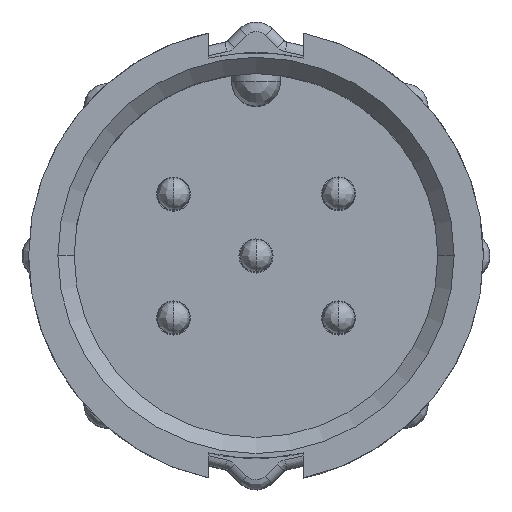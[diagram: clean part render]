
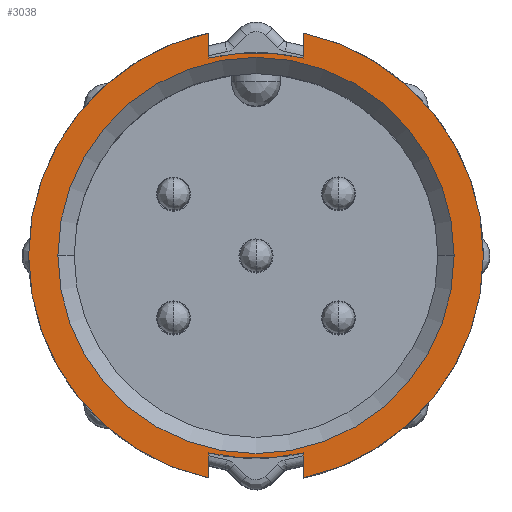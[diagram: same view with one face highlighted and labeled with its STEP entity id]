
A CAD part, top view. The second image highlights one B-rep face of the part: STEP entity #3038.
In plain terms, the highlighted planar face has unit normal (0, 0, 1).
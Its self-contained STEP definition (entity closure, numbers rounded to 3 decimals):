
#31 = CIRCLE ( 'NONE', #3529, 6.1 ) ;
#183 = DIRECTION ( 'NONE',  ( 0., 0., -1. ) ) ;
#588 = FACE_BOUND ( 'NONE', #2746, .T. ) ;
#611 = VERTEX_POINT ( 'NONE', #5896 ) ;
#698 = DIRECTION ( 'NONE',  ( 0., 1., 0. ) ) ;
#724 = VERTEX_POINT ( 'NONE', #5044 ) ;
#898 = VERTEX_POINT ( 'NONE', #13126 ) ;
#1077 = VECTOR ( 'NONE', #698, 1000. ) ;
#1254 = EDGE_CURVE ( 'NONE', #724, #7393, #31, .T. ) ;
#1374 = CARTESIAN_POINT ( 'NONE',  ( -1.45, -6.848, 0. ) ) ;
#1451 = CARTESIAN_POINT ( 'NONE',  ( 1.45, -6.848, 0. ) ) ;
#1662 = EDGE_CURVE ( 'NONE', #2514, #7991, #16449, .T. ) ;
#1838 = DIRECTION ( 'NONE',  ( 1., 0., 0. ) ) ;
#1920 = AXIS2_PLACEMENT_3D ( 'NONE', #2451, #183, #3794 ) ;
#2112 = DIRECTION ( 'NONE',  ( 0., 0., -1. ) ) ;
#2228 = CIRCLE ( 'NONE', #10037, 7. ) ;
#2253 = DIRECTION ( 'NONE',  ( 1., 0., 0. ) ) ;
#2451 = CARTESIAN_POINT ( 'NONE',  ( 0., 0., 0. ) ) ;
#2493 = CARTESIAN_POINT ( 'NONE',  ( -1.45, 0., 0. ) ) ;
#2514 = VERTEX_POINT ( 'NONE', #3247 ) ;
#2669 = CIRCLE ( 'NONE', #13732, 7. ) ;
#2746 = EDGE_LOOP ( 'NONE', ( #2956, #13110 ) ) ;
#2956 = ORIENTED_EDGE ( 'NONE', *, *, #1254, .F. ) ;
#3036 = LINE ( 'NONE', #8187, #1077 ) ;
#3038 = ADVANCED_FACE ( 'NONE', ( #588, #9250 ), #13128, .T. ) ;
#3247 = CARTESIAN_POINT ( 'NONE',  ( 1.45, -6.079, 0. ) ) ;
#3529 = AXIS2_PLACEMENT_3D ( 'NONE', #7394, #13801, #2253 ) ;
#3794 = DIRECTION ( 'NONE',  ( 0., -1., 0. ) ) ;
#3861 = DIRECTION ( 'NONE',  ( 1., 0., 0. ) ) ;
#4080 = CARTESIAN_POINT ( 'NONE',  ( 1.45, 0., 0. ) ) ;
#5044 = CARTESIAN_POINT ( 'NONE',  ( 6.1, 0., 0. ) ) ;
#5062 = AXIS2_PLACEMENT_3D ( 'NONE', #5958, #14715, #15898 ) ;
#5459 = DIRECTION ( 'NONE',  ( 0., 0., 1. ) ) ;
#5461 = LINE ( 'NONE', #6726, #6491 ) ;
#5499 = EDGE_CURVE ( 'NONE', #6750, #898, #10433, .T. ) ;
#5653 = VECTOR ( 'NONE', #14532, 1000. ) ;
#5739 = ORIENTED_EDGE ( 'NONE', *, *, #14140, .F. ) ;
#5896 = CARTESIAN_POINT ( 'NONE',  ( -1.45, 6.848, 0. ) ) ;
#5940 = ORIENTED_EDGE ( 'NONE', *, *, #1662, .F. ) ;
#5958 = CARTESIAN_POINT ( 'NONE',  ( 0., 0., 0. ) ) ;
#6316 = DIRECTION ( 'NONE',  ( 1., 0., 0. ) ) ;
#6491 = VECTOR ( 'NONE', #14308, 1000. ) ;
#6530 = CARTESIAN_POINT ( 'NONE',  ( -1.45, 6.079, 0. ) ) ;
#6726 = CARTESIAN_POINT ( 'NONE',  ( -1.45, 0., 0. ) ) ;
#6750 = VERTEX_POINT ( 'NONE', #6530 ) ;
#6754 = EDGE_CURVE ( 'NONE', #15206, #2514, #10322, .T. ) ;
#7080 = AXIS2_PLACEMENT_3D ( 'NONE', #8844, #14149, #6316 ) ;
#7393 = VERTEX_POINT ( 'NONE', #8218 ) ;
#7394 = CARTESIAN_POINT ( 'NONE',  ( 0., 0., 0. ) ) ;
#7653 = VERTEX_POINT ( 'NONE', #11477 ) ;
#7991 = VERTEX_POINT ( 'NONE', #8493 ) ;
#8187 = CARTESIAN_POINT ( 'NONE',  ( 1.45, 0., 0. ) ) ;
#8218 = CARTESIAN_POINT ( 'NONE',  ( -6.1, 0., 0. ) ) ;
#8400 = VERTEX_POINT ( 'NONE', #1374 ) ;
#8493 = CARTESIAN_POINT ( 'NONE',  ( -1.45, -6.079, 0. ) ) ;
#8844 = CARTESIAN_POINT ( 'NONE',  ( 0., 0., 0. ) ) ;
#8923 = DIRECTION ( 'NONE',  ( 0., 0., -1. ) ) ;
#8993 = EDGE_CURVE ( 'NONE', #7991, #8400, #14044, .T. ) ;
#9250 = FACE_OUTER_BOUND ( 'NONE', #13548, .T. ) ;
#9404 = EDGE_CURVE ( 'NONE', #611, #6750, #5461, .T. ) ;
#10037 = AXIS2_PLACEMENT_3D ( 'NONE', #11536, #8923, #3861 ) ;
#10322 = LINE ( 'NONE', #4080, #5653 ) ;
#10433 = CIRCLE ( 'NONE', #5062, 6.25 ) ;
#10815 = EDGE_CURVE ( 'NONE', #8400, #611, #2228, .T. ) ;
#10847 = EDGE_CURVE ( 'NONE', #7393, #724, #11636, .T. ) ;
#11369 = DIRECTION ( 'NONE',  ( 1., 0., 0. ) ) ;
#11477 = CARTESIAN_POINT ( 'NONE',  ( 1.45, 6.848, 0. ) ) ;
#11536 = CARTESIAN_POINT ( 'NONE',  ( 0., 0., 0. ) ) ;
#11636 = CIRCLE ( 'NONE', #7080, 6.1 ) ;
#12323 = ORIENTED_EDGE ( 'NONE', *, *, #14212, .F. ) ;
#13110 = ORIENTED_EDGE ( 'NONE', *, *, #10847, .F. ) ;
#13126 = CARTESIAN_POINT ( 'NONE',  ( 1.45, 6.079, 0. ) ) ;
#13128 = PLANE ( 'NONE',  #13528 ) ;
#13486 = VECTOR ( 'NONE', #14125, 1000. ) ;
#13490 = ORIENTED_EDGE ( 'NONE', *, *, #8993, .F. ) ;
#13528 = AXIS2_PLACEMENT_3D ( 'NONE', #14390, #5459, #1838 ) ;
#13548 = EDGE_LOOP ( 'NONE', ( #16048, #16111, #13490, #5940, #15057, #12323, #5739, #14823 ) ) ;
#13732 = AXIS2_PLACEMENT_3D ( 'NONE', #16349, #2112, #11369 ) ;
#13801 = DIRECTION ( 'NONE',  ( 0., 0., 1. ) ) ;
#14044 = LINE ( 'NONE', #2493, #13486 ) ;
#14125 = DIRECTION ( 'NONE',  ( 0., -1., 0. ) ) ;
#14140 = EDGE_CURVE ( 'NONE', #898, #7653, #3036, .T. ) ;
#14149 = DIRECTION ( 'NONE',  ( 0., 0., 1. ) ) ;
#14212 = EDGE_CURVE ( 'NONE', #7653, #15206, #2669, .T. ) ;
#14308 = DIRECTION ( 'NONE',  ( 0., -1., 0. ) ) ;
#14390 = CARTESIAN_POINT ( 'NONE',  ( -7.28, -7.122, 0. ) ) ;
#14532 = DIRECTION ( 'NONE',  ( 0., 1., 0. ) ) ;
#14715 = DIRECTION ( 'NONE',  ( 0., 0., -1. ) ) ;
#14823 = ORIENTED_EDGE ( 'NONE', *, *, #5499, .F. ) ;
#15057 = ORIENTED_EDGE ( 'NONE', *, *, #6754, .F. ) ;
#15206 = VERTEX_POINT ( 'NONE', #1451 ) ;
#15898 = DIRECTION ( 'NONE',  ( 0., -1., 0. ) ) ;
#16048 = ORIENTED_EDGE ( 'NONE', *, *, #9404, .F. ) ;
#16111 = ORIENTED_EDGE ( 'NONE', *, *, #10815, .F. ) ;
#16349 = CARTESIAN_POINT ( 'NONE',  ( 0., 0., 0. ) ) ;
#16449 = CIRCLE ( 'NONE', #1920, 6.25 ) ;
